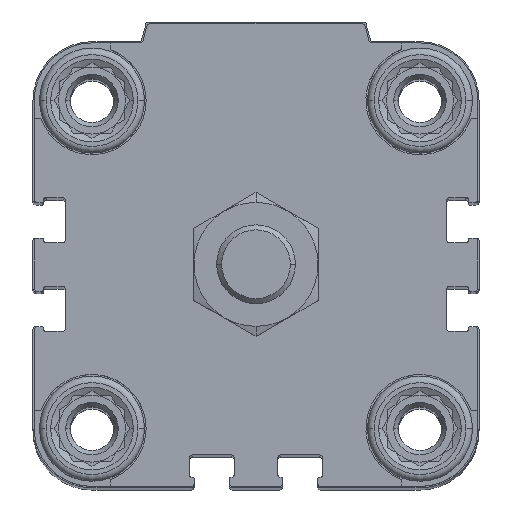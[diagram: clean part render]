
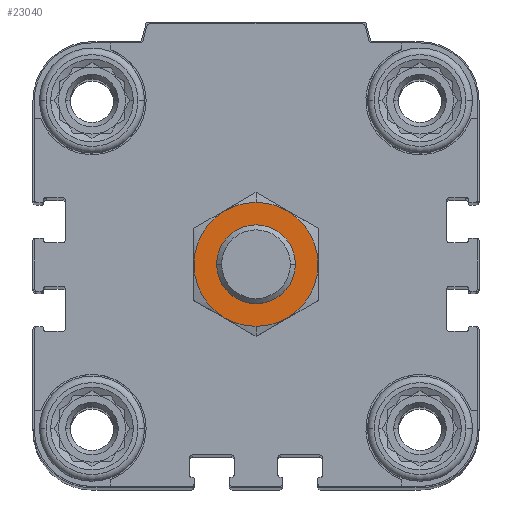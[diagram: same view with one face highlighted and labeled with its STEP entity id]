
A CAD part, top view. The second image highlights one B-rep face of the part: STEP entity #23040.
In plain terms, the highlighted planar face has unit normal (0, 0, 1).
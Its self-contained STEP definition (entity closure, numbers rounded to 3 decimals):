
#328 = CIRCLE ( 'NONE', #19903, 9.45 ) ;
#360 = EDGE_CURVE ( 'NONE', #756, #19979, #6927, .T. ) ;
#756 = VERTEX_POINT ( 'NONE', #23586 ) ;
#1300 = FACE_OUTER_BOUND ( 'NONE', #24031, .T. ) ;
#1372 = ORIENTED_EDGE ( 'NONE', *, *, #7451, .T. ) ;
#2393 = EDGE_LOOP ( 'NONE', ( #1372, #17208 ) ) ;
#3265 = DIRECTION ( 'NONE',  ( 0., 0., -1. ) ) ;
#3642 = FACE_BOUND ( 'NONE', #2393, .T. ) ;
#3846 = DIRECTION ( 'NONE',  ( 0., -1., 0. ) ) ;
#5099 = CARTESIAN_POINT ( 'NONE',  ( 0., 0., 18.5 ) ) ;
#5132 = VERTEX_POINT ( 'NONE', #15951 ) ;
#5597 = CARTESIAN_POINT ( 'NONE',  ( 0., 0., 18.5 ) ) ;
#5672 = AXIS2_PLACEMENT_3D ( 'NONE', #11838, #7800, #15523 ) ;
#5677 = DIRECTION ( 'NONE',  ( 0., 0., -1. ) ) ;
#6159 = ORIENTED_EDGE ( 'NONE', *, *, #10936, .F. ) ;
#6927 = CIRCLE ( 'NONE', #16335, 6. ) ;
#7451 = EDGE_CURVE ( 'NONE', #19979, #756, #15466, .T. ) ;
#7800 = DIRECTION ( 'NONE',  ( 0., 0., -1. ) ) ;
#8790 = PLANE ( 'NONE',  #19143 ) ;
#9444 = AXIS2_PLACEMENT_3D ( 'NONE', #21319, #5677, #3846 ) ;
#10207 = CIRCLE ( 'NONE', #9444, 9.45 ) ;
#10260 = DIRECTION ( 'NONE',  ( 0., 0., -1. ) ) ;
#10936 = EDGE_CURVE ( 'NONE', #14464, #5132, #328, .T. ) ;
#11676 = EDGE_CURVE ( 'NONE', #5132, #14464, #10207, .T. ) ;
#11838 = CARTESIAN_POINT ( 'NONE',  ( 0., 0., 18.5 ) ) ;
#12124 = DIRECTION ( 'NONE',  ( 0., -1., 0. ) ) ;
#12951 = CARTESIAN_POINT ( 'NONE',  ( 0., 6., 18.5 ) ) ;
#14086 = DIRECTION ( 'NONE',  ( 0., 0., -1. ) ) ;
#14343 = ORIENTED_EDGE ( 'NONE', *, *, #11676, .F. ) ;
#14464 = VERTEX_POINT ( 'NONE', #23062 ) ;
#15466 = CIRCLE ( 'NONE', #5672, 6. ) ;
#15523 = DIRECTION ( 'NONE',  ( 0., -1., 0. ) ) ;
#15951 = CARTESIAN_POINT ( 'NONE',  ( 0., -9.45, 18.5 ) ) ;
#16335 = AXIS2_PLACEMENT_3D ( 'NONE', #5099, #14086, #12124 ) ;
#17208 = ORIENTED_EDGE ( 'NONE', *, *, #360, .T. ) ;
#19143 = AXIS2_PLACEMENT_3D ( 'NONE', #5597, #3265, #22270 ) ;
#19903 = AXIS2_PLACEMENT_3D ( 'NONE', #23487, #10260, #23710 ) ;
#19979 = VERTEX_POINT ( 'NONE', #12951 ) ;
#21319 = CARTESIAN_POINT ( 'NONE',  ( 0., 0., 18.5 ) ) ;
#22270 = DIRECTION ( 'NONE',  ( 0., -1., 0. ) ) ;
#23040 = ADVANCED_FACE ( 'NONE', ( #1300, #3642 ), #8790, .F. ) ;
#23062 = CARTESIAN_POINT ( 'NONE',  ( 0., 9.45, 18.5 ) ) ;
#23487 = CARTESIAN_POINT ( 'NONE',  ( 0., 0., 18.5 ) ) ;
#23586 = CARTESIAN_POINT ( 'NONE',  ( 0., -6., 18.5 ) ) ;
#23710 = DIRECTION ( 'NONE',  ( 0., -1., 0. ) ) ;
#24031 = EDGE_LOOP ( 'NONE', ( #14343, #6159 ) ) ;
